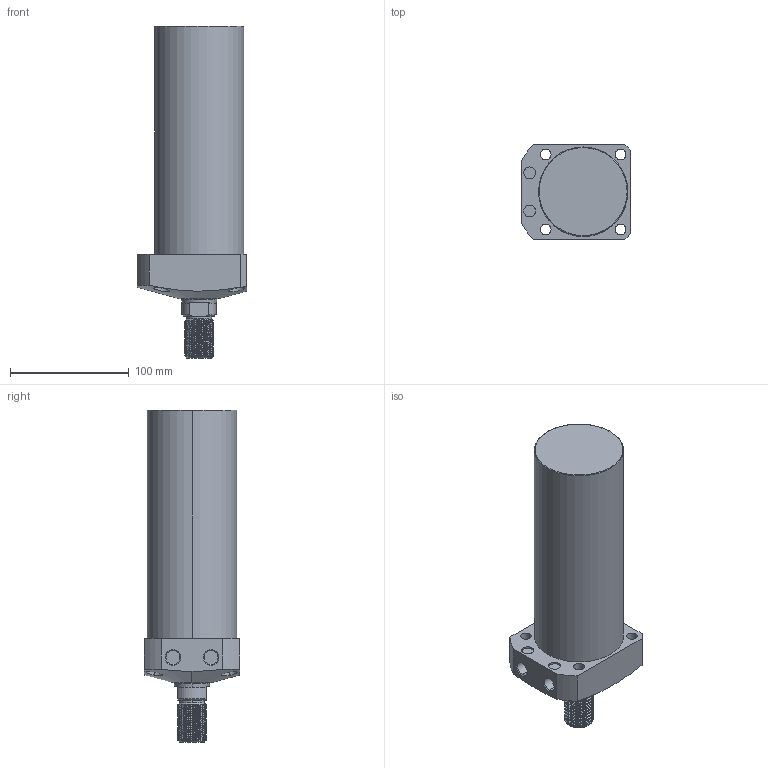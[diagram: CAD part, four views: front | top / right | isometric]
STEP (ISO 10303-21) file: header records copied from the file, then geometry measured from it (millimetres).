
FILE_DESCRIPTION (( 'STEP AP203' ), '1' );
FILE_NAME ('CLL-075CT-155.STEP', '2020-01-08T12:12:31', ( '' ), ( '' ), 'SwSTEP 2.0', 'SolidWorks 2015', '' );
FILE_SCHEMA (( 'CONFIG_CONTROL_DESIGN' ));
Length unit declared in the file: millimetre
Products named in the file (1): CLL-075CT-155
Bounding box: 92 x 80 x 279 mm (x, y, z)
Volume: 1089595.4 mm3; surface area: 79963.6 mm2
Topology: 1 solids, 1 shells, 121 faces, 310 edges, 202 vertices
Faces by surface type: cylinder 77, plane 23, cone 17, torus 2, bspline 2
Entity records: 6512 total; most frequent: CARTESIAN_POINT 3722, ORIENTED_EDGE 620, DIRECTION 517, EDGE_CURVE 310, AXIS2_PLACEMENT_3D 204, VERTEX_POINT 202, EDGE_LOOP 140, ADVANCED_FACE 121
